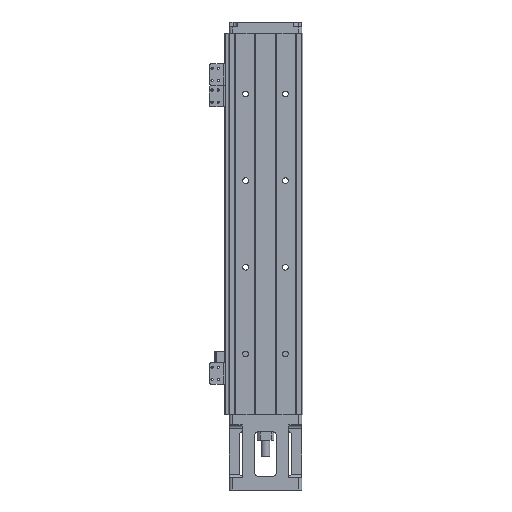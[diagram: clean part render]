
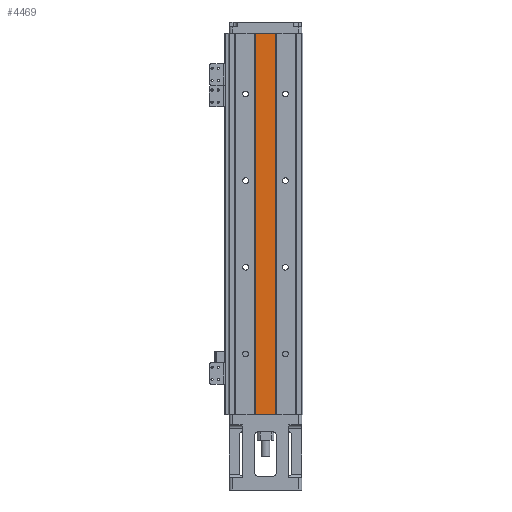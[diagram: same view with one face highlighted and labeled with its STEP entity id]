
A CAD part, front view. The second image highlights one B-rep face of the part: STEP entity #4469.
In plain terms, the highlighted planar face has unit normal (0, -1, 0).
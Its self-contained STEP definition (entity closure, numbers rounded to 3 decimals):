
#1223 = DIRECTION ( 'NONE',  ( 0., 0., 1. ) ) ;
#1954 = CARTESIAN_POINT ( 'NONE',  ( 11.731, -13.462, 0. ) ) ;
#2547 = EDGE_CURVE ( 'NONE', #18731, #16469, #14536, .T. ) ;
#2607 = CARTESIAN_POINT ( 'NONE',  ( 11.731, -13.462, 440. ) ) ;
#2934 = EDGE_CURVE ( 'NONE', #16469, #4018, #14021, .T. ) ;
#4018 = VERTEX_POINT ( 'NONE', #8176 ) ;
#4469 = ADVANCED_FACE ( 'NONE', ( #7974 ), #15672, .F. ) ;
#5143 = EDGE_CURVE ( 'NONE', #9465, #18731, #7198, .T. ) ;
#5755 = DIRECTION ( 'NONE',  ( 0., 0., -1. ) ) ;
#5978 = DIRECTION ( 'NONE',  ( 0., 1., 0. ) ) ;
#7198 = LINE ( 'NONE', #10977, #10699 ) ;
#7760 = DIRECTION ( 'NONE',  ( -1., 0., 0. ) ) ;
#7974 = FACE_OUTER_BOUND ( 'NONE', #12528, .T. ) ;
#8176 = CARTESIAN_POINT ( 'NONE',  ( 11.731, -13.462, 440. ) ) ;
#8294 = LINE ( 'NONE', #2607, #12067 ) ;
#9034 = CARTESIAN_POINT ( 'NONE',  ( -12.269, -13.462, 440. ) ) ;
#9417 = ORIENTED_EDGE ( 'NONE', *, *, #2934, .F. ) ;
#9465 = VERTEX_POINT ( 'NONE', #1954 ) ;
#9715 = VECTOR ( 'NONE', #11751, 1000. ) ;
#10699 = VECTOR ( 'NONE', #7760, 1000. ) ;
#10977 = CARTESIAN_POINT ( 'NONE',  ( -12.269, -13.462, 0. ) ) ;
#11751 = DIRECTION ( 'NONE',  ( 1., 0., 0. ) ) ;
#12067 = VECTOR ( 'NONE', #5755, 1000. ) ;
#12111 = ORIENTED_EDGE ( 'NONE', *, *, #5143, .F. ) ;
#12528 = EDGE_LOOP ( 'NONE', ( #19450, #9417, #16694, #12111 ) ) ;
#12652 = CARTESIAN_POINT ( 'NONE',  ( -12.269, -13.462, 440. ) ) ;
#13903 = CARTESIAN_POINT ( 'NONE',  ( -12.269, -13.462, 440. ) ) ;
#14021 = LINE ( 'NONE', #13903, #9715 ) ;
#14536 = LINE ( 'NONE', #18978, #15048 ) ;
#15048 = VECTOR ( 'NONE', #1223, 1000. ) ;
#15672 = PLANE ( 'NONE',  #18017 ) ;
#16469 = VERTEX_POINT ( 'NONE', #9034 ) ;
#16520 = EDGE_CURVE ( 'NONE', #4018, #9465, #8294, .T. ) ;
#16694 = ORIENTED_EDGE ( 'NONE', *, *, #2547, .F. ) ;
#17391 = DIRECTION ( 'NONE',  ( 0., 0., 1. ) ) ;
#18017 = AXIS2_PLACEMENT_3D ( 'NONE', #12652, #5978, #17391 ) ;
#18473 = CARTESIAN_POINT ( 'NONE',  ( -12.269, -13.462, 0. ) ) ;
#18731 = VERTEX_POINT ( 'NONE', #18473 ) ;
#18978 = CARTESIAN_POINT ( 'NONE',  ( -12.269, -13.462, 440. ) ) ;
#19450 = ORIENTED_EDGE ( 'NONE', *, *, #16520, .F. ) ;
